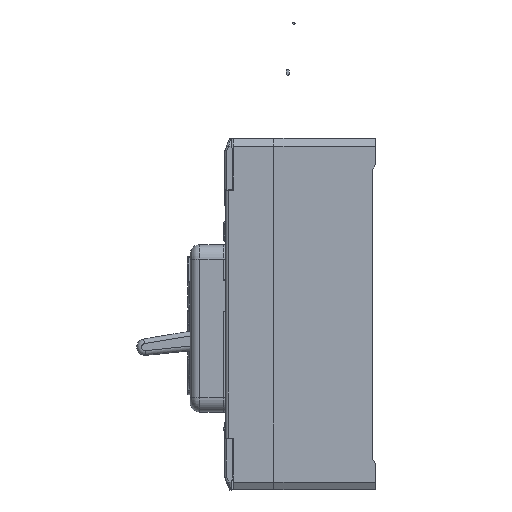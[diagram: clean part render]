
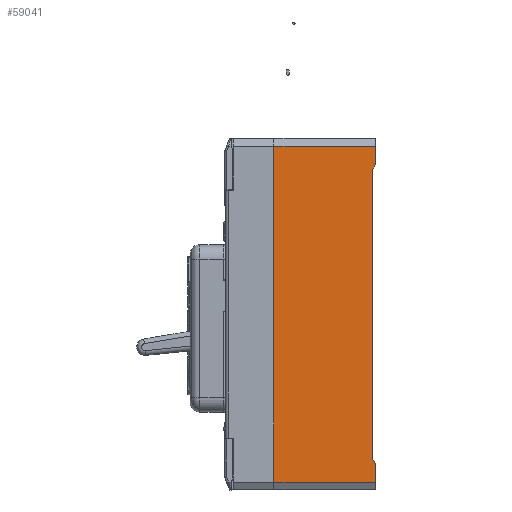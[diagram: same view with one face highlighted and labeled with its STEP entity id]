
A CAD part, left-side view. The second image highlights one B-rep face of the part: STEP entity #59041.
In plain terms, the highlighted planar face has unit normal (-1, 0, 0).
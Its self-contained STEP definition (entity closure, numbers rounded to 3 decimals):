
#2498 = VERTEX_POINT ( 'NONE', #12910 ) ;
#2537 = VERTEX_POINT ( 'NONE', #13031 ) ;
#2539 = EDGE_CURVE ( 'NONE', #2557, #2537, #13027, .T. ) ;
#2557 = VERTEX_POINT ( 'NONE', #13212 ) ;
#2561 = EDGE_CURVE ( 'NONE', #2498, #2557, #13209, .T. ) ;
#12910 = CARTESIAN_POINT ( 'NONE',  ( -175.303, -49.784, 97.381 ) ) ;
#13022 = DIRECTION ( 'NONE',  ( 0., 1., 0. ) ) ;
#13023 = VECTOR ( 'NONE', #13022, 1000. ) ;
#13025 = CARTESIAN_POINT ( 'NONE',  ( -175.303, -49.784, 109.17 ) ) ;
#13027 = LINE ( 'NONE', #13025, #13023 ) ;
#13031 = CARTESIAN_POINT ( 'NONE',  ( -175.303, 14.666, 109.17 ) ) ;
#13204 = DIRECTION ( 'NONE',  ( 0., 0., 1. ) ) ;
#13206 = VECTOR ( 'NONE', #13204, 1000. ) ;
#13208 = CARTESIAN_POINT ( 'NONE',  ( -175.303, -49.784, -109.6 ) ) ;
#13209 = LINE ( 'NONE', #13208, #13206 ) ;
#13212 = CARTESIAN_POINT ( 'NONE',  ( -175.303, -49.784, 109.17 ) ) ;
#41064 = CARTESIAN_POINT ( 'NONE',  ( -175.303, -47.834, 94.003 ) ) ;
#41066 = DIRECTION ( 'NONE',  ( 0., 0.5, -0.866 ) ) ;
#41068 = VECTOR ( 'NONE', #41066, 1000. ) ;
#41070 = CARTESIAN_POINT ( 'NONE',  ( -175.303, 39.842, -57.855 ) ) ;
#41072 = LINE ( 'NONE', #41070, #41068 ) ;
#41303 = DIRECTION ( 'NONE',  ( 0., 0., 1. ) ) ;
#41305 = VECTOR ( 'NONE', #41303, 1000. ) ;
#41306 = CARTESIAN_POINT ( 'NONE',  ( -175.303, -49.784, -109.6 ) ) ;
#41307 = LINE ( 'NONE', #41306, #41305 ) ;
#41312 = CARTESIAN_POINT ( 'NONE',  ( -175.303, -49.784, -104.6 ) ) ;
#41315 = DIRECTION ( 'NONE',  ( 0., -1., 0. ) ) ;
#41316 = VECTOR ( 'NONE', #41315, 1000. ) ;
#41318 = CARTESIAN_POINT ( 'NONE',  ( -175.303, -49.784, -104.6 ) ) ;
#41320 = LINE ( 'NONE', #41318, #41316 ) ;
#41325 = CARTESIAN_POINT ( 'NONE',  ( -175.303, 14.666, -104.6 ) ) ;
#41327 = DIRECTION ( 'NONE',  ( 0., 0., 1. ) ) ;
#41329 = VECTOR ( 'NONE', #41327, 1000. ) ;
#41330 = CARTESIAN_POINT ( 'NONE',  ( -175.303, 14.666, -109.6 ) ) ;
#41332 = LINE ( 'NONE', #41330, #41329 ) ;
#41386 = DIRECTION ( 'NONE',  ( 0., 0., -1. ) ) ;
#41387 = VECTOR ( 'NONE', #41386, 1000. ) ;
#41389 = CARTESIAN_POINT ( 'NONE',  ( -175.303, -47.834, -92.811 ) ) ;
#41391 = LINE ( 'NONE', #41389, #41387 ) ;
#41396 = DIRECTION ( 'NONE',  ( 0., 0., 1. ) ) ;
#41398 = DIRECTION ( 'NONE',  ( -1., 0., 0. ) ) ;
#41400 = CARTESIAN_POINT ( 'NONE',  ( -175.303, -49.784, -109.6 ) ) ;
#41401 = AXIS2_PLACEMENT_3D ( 'NONE', #41400, #41398, #41396 ) ;
#41403 = PLANE ( 'NONE',  #41401 ) ;
#41408 = FACE_OUTER_BOUND ( 'NONE', #59042, .T. ) ;
#41489 = CARTESIAN_POINT ( 'NONE',  ( -175.303, -49.784, -92.811 ) ) ;
#41491 = DIRECTION ( 'NONE',  ( 0., -0.5, -0.866 ) ) ;
#41493 = VECTOR ( 'NONE', #41491, 1000. ) ;
#41495 = CARTESIAN_POINT ( 'NONE',  ( -175.303, -57.053, -105.403 ) ) ;
#41496 = LINE ( 'NONE', #41495, #41493 ) ;
#41501 = CARTESIAN_POINT ( 'NONE',  ( -175.303, -47.834, -89.434 ) ) ;
#58976 = EDGE_CURVE ( 'NONE', #2498, #58977, #41072, .T. ) ;
#58977 = VERTEX_POINT ( 'NONE', #41064 ) ;
#59022 = ORIENTED_EDGE ( 'NONE', *, *, #2539, .T. ) ;
#59023 = ORIENTED_EDGE ( 'NONE', *, *, #59024, .F. ) ;
#59024 = EDGE_CURVE ( 'NONE', #59025, #2537, #41332, .T. ) ;
#59025 = VERTEX_POINT ( 'NONE', #41325 ) ;
#59026 = ORIENTED_EDGE ( 'NONE', *, *, #59027, .T. ) ;
#59027 = EDGE_CURVE ( 'NONE', #59025, #59028, #41320, .T. ) ;
#59028 = VERTEX_POINT ( 'NONE', #41312 ) ;
#59029 = ORIENTED_EDGE ( 'NONE', *, *, #59030, .T. ) ;
#59030 = EDGE_CURVE ( 'NONE', #59028, #59059, #41307, .T. ) ;
#59041 = ADVANCED_FACE ( 'NONE', ( #41408 ), #41403, .T. ) ;
#59042 = EDGE_LOOP ( 'NONE', ( #59043, #59044, #59046, #59105, #59022, #59023, #59026, #59029 ) ) ;
#59043 = ORIENTED_EDGE ( 'NONE', *, *, #59058, .F. ) ;
#59044 = ORIENTED_EDGE ( 'NONE', *, *, #59045, .F. ) ;
#59045 = EDGE_CURVE ( 'NONE', #58977, #59056, #41391, .T. ) ;
#59046 = ORIENTED_EDGE ( 'NONE', *, *, #58976, .F. ) ;
#59056 = VERTEX_POINT ( 'NONE', #41501 ) ;
#59058 = EDGE_CURVE ( 'NONE', #59056, #59059, #41496, .T. ) ;
#59059 = VERTEX_POINT ( 'NONE', #41489 ) ;
#59105 = ORIENTED_EDGE ( 'NONE', *, *, #2561, .T. ) ;
